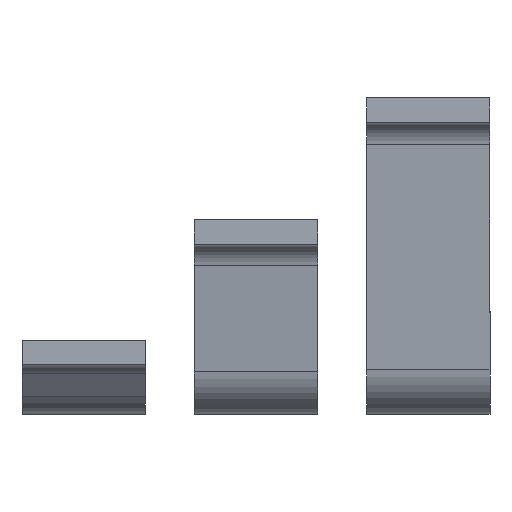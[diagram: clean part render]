
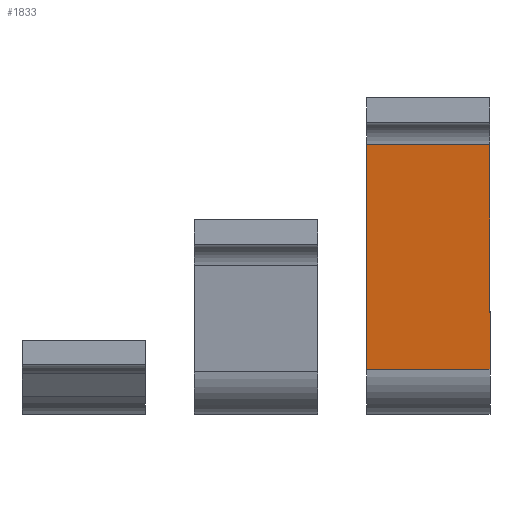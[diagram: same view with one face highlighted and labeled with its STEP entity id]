
A CAD part, front view. The second image highlights one B-rep face of the part: STEP entity #1833.
In plain terms, the highlighted planar face has unit normal (0, -0.996, -0.087) as drawn and (0, 0.087, -0.996) by its records, which use the part's own axes.
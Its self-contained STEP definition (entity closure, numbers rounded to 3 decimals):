
#12 = VERTEX_POINT ( 'NONE', #1114 ) ;
#19 = CARTESIAN_POINT ( 'NONE',  ( 25., 46.429, -5.976 ) ) ;
#45 = EDGE_CURVE ( 'NONE', #12, #3606, #3626, .T. ) ;
#72 = ORIENTED_EDGE ( 'NONE', *, *, #485, .F. ) ;
#185 = LINE ( 'NONE', #1142, #3701 ) ;
#282 = VERTEX_POINT ( 'NONE', #1547 ) ;
#377 = ORIENTED_EDGE ( 'NONE', *, *, #45, .T. ) ;
#458 = AXIS2_PLACEMENT_3D ( 'NONE', #995, #676, #964 ) ;
#468 = LINE ( 'NONE', #1373, #680 ) ;
#485 = EDGE_CURVE ( 'NONE', #2479, #282, #468, .T. ) ;
#518 = CARTESIAN_POINT ( 'NONE',  ( 25., -44.686, -13.948 ) ) ;
#566 = VECTOR ( 'NONE', #795, 1000. ) ;
#676 = DIRECTION ( 'NONE',  ( 0., -0.087, 0.996 ) ) ;
#680 = VECTOR ( 'NONE', #2524, 1000. ) ;
#683 = VECTOR ( 'NONE', #1405, 1000. ) ;
#709 = FACE_OUTER_BOUND ( 'NONE', #2931, .T. ) ;
#795 = DIRECTION ( 'NONE',  ( 0., 0.996, 0.087 ) ) ;
#964 = DIRECTION ( 'NONE',  ( 0., -0.996, -0.087 ) ) ;
#995 = CARTESIAN_POINT ( 'NONE',  ( 25., -44.686, -13.948 ) ) ;
#1114 = CARTESIAN_POINT ( 'NONE',  ( 25., -44.686, -13.948 ) ) ;
#1142 = CARTESIAN_POINT ( 'NONE',  ( -25., -44.686, -13.948 ) ) ;
#1373 = CARTESIAN_POINT ( 'NONE',  ( 25., 46.429, -5.976 ) ) ;
#1405 = DIRECTION ( 'NONE',  ( -1., 0., 0. ) ) ;
#1440 = ORIENTED_EDGE ( 'NONE', *, *, #3228, .F. ) ;
#1547 = CARTESIAN_POINT ( 'NONE',  ( -25., 46.429, -5.976 ) ) ;
#1586 = PLANE ( 'NONE',  #458 ) ;
#1833 = ADVANCED_FACE ( 'NONE', ( #709 ), #1586, .F. ) ;
#2110 = ORIENTED_EDGE ( 'NONE', *, *, #2444, .T. ) ;
#2167 = CARTESIAN_POINT ( 'NONE',  ( -25., -44.686, -13.948 ) ) ;
#2444 = EDGE_CURVE ( 'NONE', #3606, #282, #185, .T. ) ;
#2479 = VERTEX_POINT ( 'NONE', #19 ) ;
#2524 = DIRECTION ( 'NONE',  ( -1., 0., 0. ) ) ;
#2600 = LINE ( 'NONE', #3349, #566 ) ;
#2869 = DIRECTION ( 'NONE',  ( 0., 0.996, 0.087 ) ) ;
#2931 = EDGE_LOOP ( 'NONE', ( #2110, #72, #1440, #377 ) ) ;
#3228 = EDGE_CURVE ( 'NONE', #12, #2479, #2600, .T. ) ;
#3349 = CARTESIAN_POINT ( 'NONE',  ( 25., -44.686, -13.948 ) ) ;
#3606 = VERTEX_POINT ( 'NONE', #2167 ) ;
#3626 = LINE ( 'NONE', #518, #683 ) ;
#3701 = VECTOR ( 'NONE', #2869, 1000. ) ;
